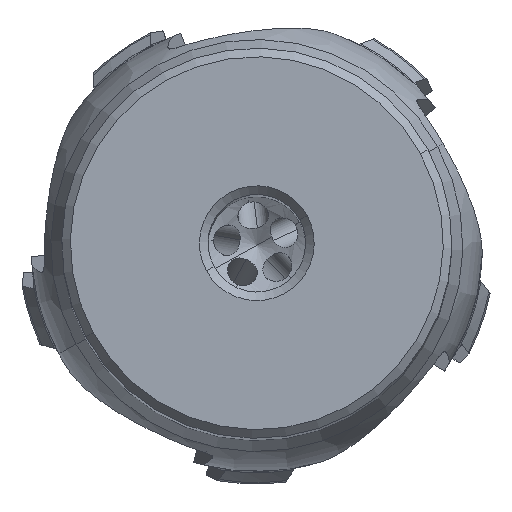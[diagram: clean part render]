
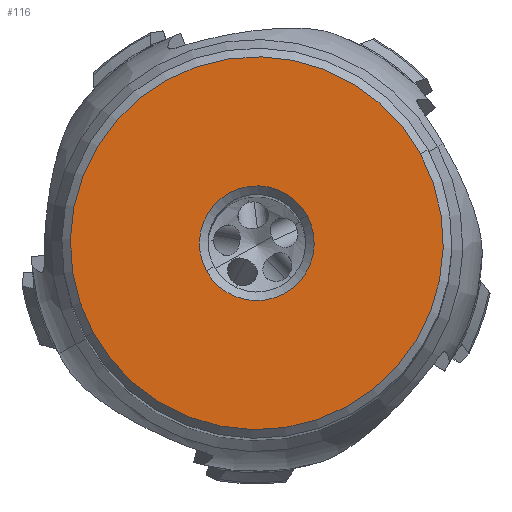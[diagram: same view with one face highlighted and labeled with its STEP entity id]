
A CAD part, top view. The second image highlights one B-rep face of the part: STEP entity #116.
In plain terms, the highlighted planar face has unit normal (0, 0, 1).
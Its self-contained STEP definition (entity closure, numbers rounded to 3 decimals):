
#48=AXIS2_PLACEMENT_3D('Circle Axis2P3D',#46,#47,$) ;
#74=AXIS2_PLACEMENT_3D('Circle Axis2P3D',#72,#73,$) ;
#92=AXIS2_PLACEMENT_3D('Plane Axis2P3D',#89,#90,#91) ;
#100=AXIS2_PLACEMENT_3D('Circle Axis2P3D',#98,#99,$) ;
#109=AXIS2_PLACEMENT_3D('Circle Axis2P3D',#107,#108,$) ;
#43=CARTESIAN_POINT('Vertex',(-13.421,-7.332,0.)) ;
#46=CARTESIAN_POINT('Axis2P3D Location',(0.,0.,0.)) ;
#50=CARTESIAN_POINT('Vertex',(13.421,7.332,0.)) ;
#72=CARTESIAN_POINT('Axis2P3D Location',(0.,0.,0.)) ;
#89=CARTESIAN_POINT('Axis2P3D Location',(-15.293,0.,0.)) ;
#98=CARTESIAN_POINT('Axis2P3D Location',(0.,0.,0.)) ;
#102=CARTESIAN_POINT('Vertex',(-4.131,-2.257,0.)) ;
#104=CARTESIAN_POINT('Vertex',(4.131,2.257,0.)) ;
#107=CARTESIAN_POINT('Axis2P3D Location',(0.,0.,0.)) ;
#47=DIRECTION('Axis2P3D Direction',(0.,0.,-1.)) ;
#73=DIRECTION('Axis2P3D Direction',(0.,0.,-1.)) ;
#90=DIRECTION('Axis2P3D Direction',(0.,0.,1.)) ;
#91=DIRECTION('Axis2P3D XDirection',(1.,0.,0.)) ;
#99=DIRECTION('Axis2P3D Direction',(0.,0.,1.)) ;
#108=DIRECTION('Axis2P3D Direction',(0.,0.,1.)) ;
#95=ORIENTED_EDGE('',*,*,#52,.T.) ;
#96=ORIENTED_EDGE('',*,*,#76,.T.) ;
#113=ORIENTED_EDGE('',*,*,#106,.F.) ;
#114=ORIENTED_EDGE('',*,*,#111,.F.) ;
#115=FACE_BOUND('',#112,.T.) ;
#116=ADVANCED_FACE('NO_CUT',(#97,#115),#93,.T.) ;
#49=CIRCLE('generated circle',#48,15.293) ;
#75=CIRCLE('generated circle',#74,15.293) ;
#101=CIRCLE('generated circle',#100,4.707) ;
#110=CIRCLE('generated circle',#109,4.707) ;
#52=EDGE_CURVE('',#51,#44,#49,.F.) ;
#76=EDGE_CURVE('',#44,#51,#75,.F.) ;
#106=EDGE_CURVE('',#103,#105,#101,.T.) ;
#111=EDGE_CURVE('',#105,#103,#110,.T.) ;
#94=EDGE_LOOP('',(#95,#96)) ;
#112=EDGE_LOOP('',(#113,#114)) ;
#97=FACE_OUTER_BOUND('',#94,.T.) ;
#93=PLANE('',#92) ;
#44=VERTEX_POINT('',#43) ;
#51=VERTEX_POINT('',#50) ;
#103=VERTEX_POINT('',#102) ;
#105=VERTEX_POINT('',#104) ;
